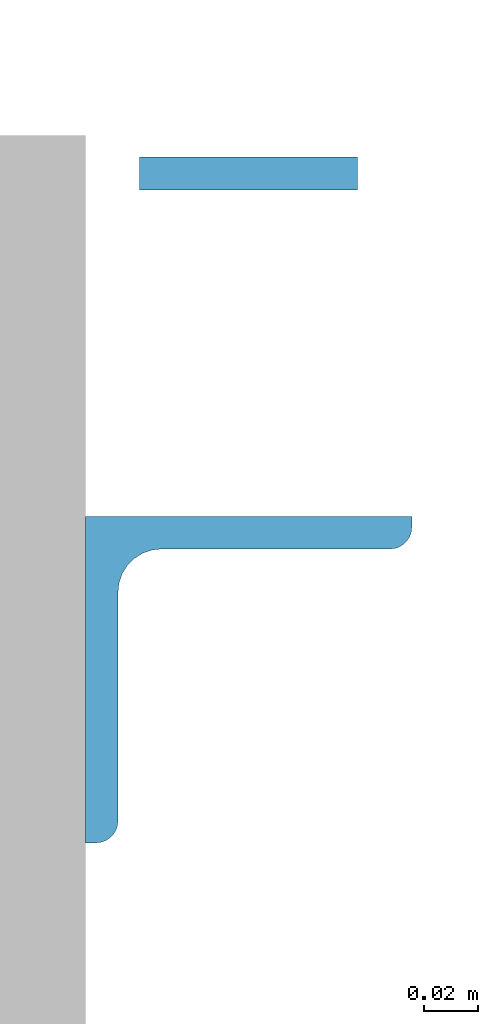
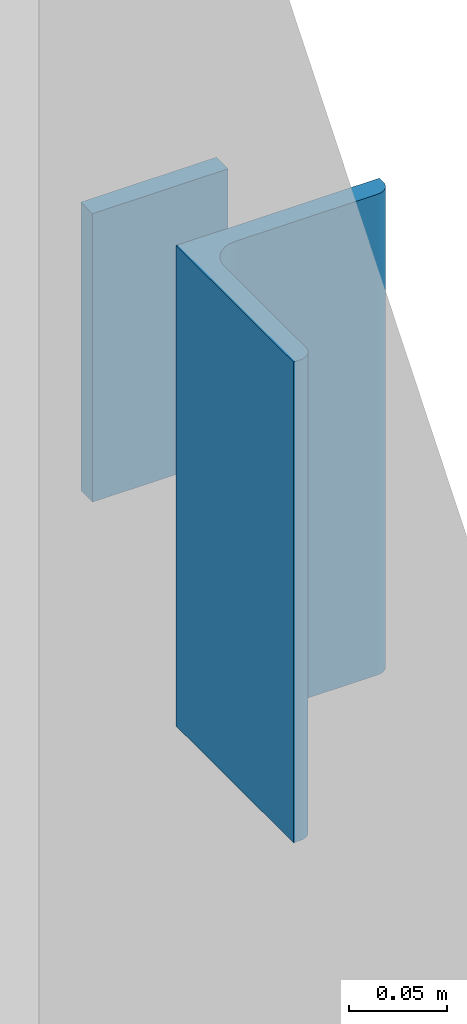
# One storey, part 13 of 22: 2 columns.
"""IFC2X3 building model written with IfcOpenShell, lengths in millimetres."""

from ifc_helpers import new_model, entity, si_unit, converted_unit, derived_unit, direction, frame, frame_2d, origin, origin_2d_with_axis, place, context, subcontext, project, spatial, polyline, circle_curve, parameter, trimmed, segment, composite_curve, rectangle, outline, extrude, source, transform, mapped, material, type_object, type_shapes, element, save


model = new_model("IFC2X3")

# Units and contexts
model_context = context("Model", 3, precision=0.01, world=origin(), true_north=direction((6.12303176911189e-17, 1.0)))
body_context = subcontext(model_context, "Body", "Model", "MODEL_VIEW")
ifc_project = project(units=[si_unit("LENGTHUNIT", "METRE", prefix="MILLI"), si_unit("AREAUNIT", "SQUARE_METRE"), si_unit("VOLUMEUNIT", "CUBIC_METRE"), converted_unit("PLANEANGLEUNIT", "DEGREE", entity("IfcRatioMeasure", 0.0174532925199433), si_unit("PLANEANGLEUNIT", "RADIAN"), dimensions=[0, 0, 0, 0, 0, 0, 0]), si_unit("MASSUNIT", "GRAM", prefix="KILO"), derived_unit("MASSDENSITYUNIT", [(si_unit("MASSUNIT", "GRAM", prefix="KILO"), 1), (si_unit("LENGTHUNIT", "METRE"), -3)]), si_unit("TIMEUNIT", "SECOND"), si_unit("FREQUENCYUNIT", "HERTZ"), si_unit("THERMODYNAMICTEMPERATUREUNIT", "DEGREE_CELSIUS"), derived_unit("THERMALTRANSMITTANCEUNIT", [(si_unit("MASSUNIT", "GRAM", prefix="KILO"), 1), (si_unit("THERMODYNAMICTEMPERATUREUNIT", "KELVIN"), -1), (si_unit("TIMEUNIT", "SECOND"), -3)]), derived_unit("VOLUMETRICFLOWRATEUNIT", [(si_unit("LENGTHUNIT", "METRE"), 3), (si_unit("TIMEUNIT", "SECOND"), -1)]), si_unit("ELECTRICCURRENTUNIT", "AMPERE"), si_unit("ELECTRICVOLTAGEUNIT", "VOLT"), si_unit("POWERUNIT", "WATT"), si_unit("FORCEUNIT", "NEWTON", prefix="KILO"), si_unit("ILLUMINANCEUNIT", "LUX"), si_unit("LUMINOUSFLUXUNIT", "LUMEN"), si_unit("LUMINOUSINTENSITYUNIT", "CANDELA"), derived_unit("USERDEFINED", [(si_unit("MASSUNIT", "GRAM", prefix="KILO"), -1), (si_unit("LENGTHUNIT", "METRE"), -2), (si_unit("TIMEUNIT", "SECOND"), 3), (si_unit("LUMINOUSFLUXUNIT", "LUMEN"), 1)]), derived_unit("LINEARVELOCITYUNIT", [(si_unit("LENGTHUNIT", "METRE"), 1), (si_unit("TIMEUNIT", "SECOND"), -1)]), si_unit("PRESSUREUNIT", "PASCAL"), derived_unit("USERDEFINED", [(si_unit("LENGTHUNIT", "METRE"), -2), (si_unit("MASSUNIT", "GRAM", prefix="KILO"), 1), (si_unit("TIMEUNIT", "SECOND"), -2)])], contexts=[model_context])

# Site, building, storey
site_placement = place(None, origin())
site = spatial("IfcSite", under=ifc_project, at=site_placement, Name="Default", CompositionType="ELEMENT")
building_placement = place(site_placement, origin())
building = spatial("IfcBuilding", under=site, at=building_placement, Name="niet gebruiken", CompositionType="ELEMENT")
storey_placement = place(building_placement, frame((0.0, 0.0, 15000.0)))
storey = spatial("IfcBuildingStorey", under=building, at=storey_placement, Name="04 vierde verdieping", CompositionType="ELEMENT", Elevation=15000.0)

# Columns
ifc_material = material(Name="NLRS_h2_staal")
column_type_1 = type_object("IfcColumnType", Name="kolomgelijzijdig hoekprofiel LEQU_120x120x12_!", PredefinedType="COLUMN", material=ifc_material)
shared_shape_1 = source(origin(), body_context, "Body", "SweptSolid", [
    extrude(outline(composite_curve([segment(polyline([(-74.6666666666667, -45.3333333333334), (45.3333333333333, -45.3333333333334)]), True, "CONTINUOUS"), segment(polyline([(45.3333333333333, -45.3333333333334), (45.3333333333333, 74.6666666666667)]), True, "CONTINUOUS"), segment(polyline([(45.3333333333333, 74.6666666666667), (41.3333333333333, 74.6666666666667)]), True, "CONTINUOUS"), segment(trimmed(circle_curve(frame_2d((41.3333333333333, 66.6666666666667), x_axis=(0.0, 1.0)), 8.0), [parameter(0.0)], [parameter(90.0)], True, "PARAMETER"), True, "CONTINUOUS"), segment(polyline([(33.3333333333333, 66.6666666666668), (33.3333333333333, -17.3333333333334)]), True, "CONTINUOUS"), segment(trimmed(circle_curve(frame_2d((17.3333333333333, -17.3333333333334), x_axis=(1.0, 0.0)), 16.0), [parameter(270.0)], [parameter(0.0)], True, "PARAMETER"), False, "CONTINUOUS"), segment(polyline([(17.3333333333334, -33.3333333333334), (-66.6666666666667, -33.3333333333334)]), True, "CONTINUOUS"), segment(trimmed(circle_curve(frame_2d((-66.6666666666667, -41.3333333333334), x_axis=(0.0, 1.0)), 7.99999999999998), [parameter(0.0)], [parameter(90.0000000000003)], True, "PARAMETER"), True, "CONTINUOUS"), segment(polyline([(-74.6666666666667, -41.3333333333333), (-74.6666666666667, -45.3333333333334)]), True, "CONTINUOUS")], self_intersect=False)), frame((32.8333333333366, 32.8333333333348, 16235.0), z_axis=(0.0, 0.0, 1.0), x_axis=(0.0, -1.0, 0.0)), (0.0, 0.0, 1.0), 300.00000000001),
])
type_shapes(column_type_1, [shared_shape_1])
column_1_placement = place(storey_placement, frame((157492.5, 33077.4999999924, -15000.0), z_axis=(0.0, 0.0, 1.0), x_axis=(0.0, -1.0, 0.0)))
element("IfcColumn", 1, at=column_1_placement, inside=storey, type_object=column_type_1, material=ifc_material, Name="NLRS_28.11_SCO_TLB_stalen kolom hoekprofiel gelijkzijdig_gen:kolomgelijzijdig hoekprofiel LEQU_120x120x12_!", ObjectType="kolomgelijzijdig hoekprofiel LEQU_120x120x12_!", context=body_context, shape_type="MappedRepresentation", body=[
    mapped(shared_shape_1, transform((0.0, 0.0, 0.0), scale=1.0)),
])
column_type_2 = type_object("IfcColumnType", Name="kolom stripstaal RECT_80x12", PredefinedType="COLUMN", material=ifc_material)
shared_shape_2 = source(origin(), body_context, "Body", "SweptSolid", [
    extrude(rectangle(XDim=12.0000000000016, YDim=80.0000000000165, at=origin_2d_with_axis()), frame((157540.0, 33216.0, 16295.0), z_axis=(0.0, 0.0, 1.0), x_axis=(0.0, -1.0, 0.0)), (0.0, 0.0, 1.0), 180.000000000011),
])
type_shapes(column_type_2, [shared_shape_2])
column_2_placement = place(storey_placement, frame((0.0, 0.0, -15000.0)))
element("IfcColumn", 2, at=column_2_placement, inside=storey, type_object=column_type_2, material=ifc_material, Name="NLRS_28.11_SCO_TLB_stalen kolom stripstaal_gen:kolom stripstaal RECT_80x12", ObjectType="kolom stripstaal RECT_80x12", context=body_context, shape_type="MappedRepresentation", body=[
    mapped(shared_shape_2, transform((0.0, 0.0, 0.0), scale=1.0)),
])

save(model, "model.ifc")
